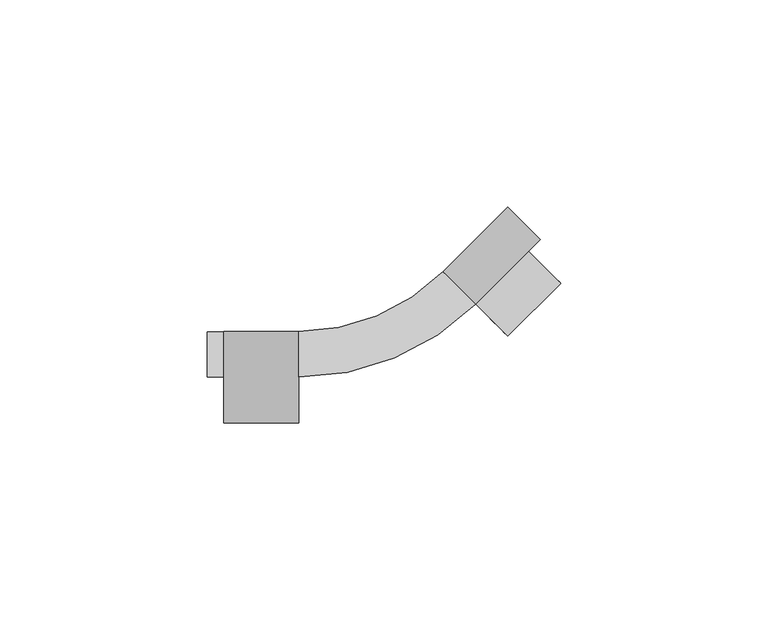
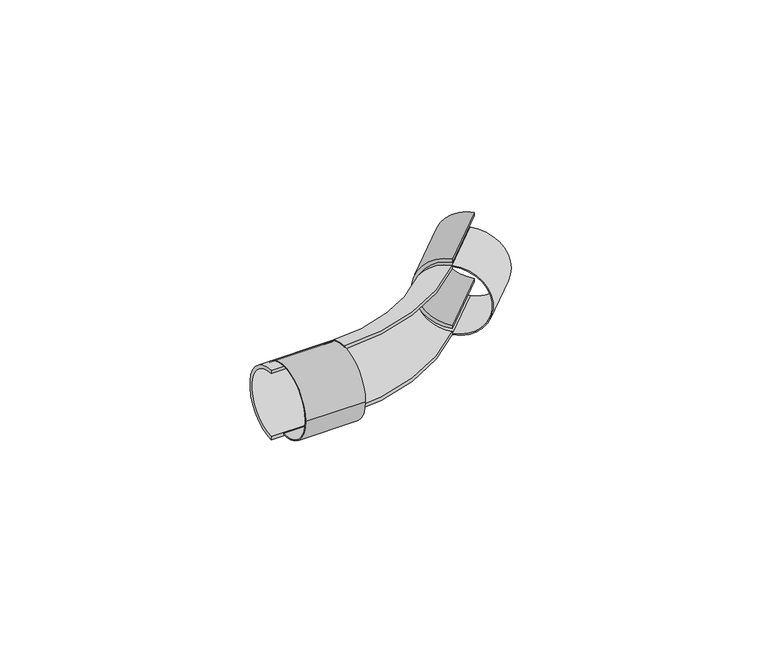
"""IFC4 building model written with IfcOpenShell, lengths in millimetres: pipe fitting geometry, REHAU_RAUTITAN_Pipe bend former sanitary : REHAU_RAUTITAN_Pipe bend former sanitary."""

from ifc_helpers import new_model, si_unit, point, frame, frame_2d, origin, origin_2d, place, context, project, spatial, polyline, circle_curve, ellipse_curve, trimmed, segment, composite_curve, outline, extrude, source, transform, mapped, element, save
from ifc_brep_helpers import plane_surface, cylinder_surface, revolved_surface, advanced_brep


def pipe_fitting_27d213ee(model_context):
    return source(origin(), model_context, "Body", "SolidModel", [
        advanced_brep(
        [(-25.0, 0.0, 11.0), (-25.0, 0.0, -11.0), (-25.0, 0.0, -10.0), (-25.0, 0.0, 10.0), (17.6776695, 17.6776695, 11.0), (17.6776695, 17.6776695, 10.0), (17.6776695, 17.6776695, -10.0), (17.6776695, 17.6776695, -11.0)],
        [
            (0, 1, circle_curve(frame((-25.0, 0.0, 0.0), z_axis=(-1.0, 0.0, 0.0), x_axis=(0.0, 1.0, 0.0)), 11.0)),
            (1, 2),
            (2, 3, circle_curve(frame((-25.0, 0.0, 0.0), z_axis=(1.0, 0.0, 0.0), x_axis=(0.0, 1.0, 0.0)), 10.0)),
            (3, 0),
            (4, 5),
            (5, 6, circle_curve(frame((17.6776695, 17.6776695, 0.0), z_axis=(-0.7071067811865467, -0.7071067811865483, 0.0), x_axis=(-0.7071067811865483, 0.7071067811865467, 0.0)), 10.0)),
            (6, 7),
            (7, 4, circle_curve(frame((17.6776695, 17.6776695, 0.0), z_axis=(0.7071067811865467, 0.7071067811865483, 0.0), x_axis=(-0.7071067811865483, 0.7071067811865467, 0.0)), 11.0)),
            (4, 0, circle_curve(frame((-25.0, 60.3553391, 11.0), z_axis=(0.0, 0.0, -1.0), x_axis=(0.0, -1.0, 0.0)), 60.3553391)),
            (3, 5, circle_curve(frame((-25.0, 60.3553391, 10.0), z_axis=(0.0, 0.0, 1.0), x_axis=(0.0, -1.0, 0.0)), 60.3553391)),
            (6, 2, circle_curve(frame((-25.0, 60.3553391, -10.0), z_axis=(0.0, 0.0, -1.0), x_axis=(0.0, -1.0, 0.0)), 60.3553391)),
            (1, 7, circle_curve(frame((-25.0, 60.3553391, -11.0), z_axis=(0.0, 0.0, 1.0), x_axis=(0.0, -1.0, 0.0)), 60.3553391)),
        ],
        [
            plane_surface(frame((-25.0, 0.0, 0.0), z_axis=(-1.0, 0.0, 0.0), x_axis=(0.0, 0.0, 1.0))),
            plane_surface(frame((17.6776695, 17.6776695, 0.0), z_axis=(0.7071067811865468, 0.7071067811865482, 0.0), x_axis=(0.0, 0.0, 1.0))),
            cylinder_surface(frame((-25.0, 60.3553391, 0.0), z_axis=(0.0, 0.0, 1.0), x_axis=(0.0, -1.0, 0.0)), 60.3553391),
            revolved_surface(trimmed(ellipse_curve(frame((-25.0, 0.0, 0.0), z_axis=(-1.0, 0.0, 0.0), x_axis=(0.0, 1.0, 0.0)), 11.0, 11.0), [point((-25.0, 0.0, 11.0))], [point((-25.0, 0.0, -11.0))], True, "CARTESIAN"), (-25.0, 60.3553391, 0.0), (0.0, 0.0, 1.0)),
            revolved_surface(trimmed(ellipse_curve(frame((-25.0, 0.0, 0.0), z_axis=(1.0, 0.0, 0.0), x_axis=(0.0, 1.0, 0.0)), 10.0, 10.0), [point((-25.0, 0.0, -10.0))], [point((-25.0, 0.0, 10.0))], True, "CARTESIAN"), (-25.0, 60.3553391, 0.0), (0.0, 0.0, 1.0)),
        ],
        [
            (0, [[1, 2, 3, 4]]),
            (1, [[5, 6, 7, 8]]),
            (2, [[9, -4, 10, -5]]),
            (2, [[11, -2, 12, -7]]),
            (3, [[-12, -1, -9, -8]]),
            (4, [[-10, -3, -11, -6]]),
        ],
    ),
        extrude(outline(composite_curve([segment(trimmed(circle_curve(origin_2d(), 11.0), [point((11.0, 0.0))], [point((-11.0, 0.0))], False, "CARTESIAN"), True, "CONTINUOUS"), segment(trimmed(circle_curve(origin_2d(), 11.0), [point((-11.0, 0.0))], [point((11.0, 0.0))], False, "CARTESIAN"), True, "CONTINUOUS")], self_intersect=False), holes=[composite_curve([segment(trimmed(circle_curve(origin_2d(), 10.65), [point((10.65, 0.0))], [point((-10.65, 0.0))], True, "CARTESIAN"), True, "CONTINUOUS"), segment(trimmed(circle_curve(origin_2d(), 10.65), [point((-10.65, 0.0))], [point((10.65, 0.0))], True, "CARTESIAN"), True, "CONTINUOUS")], self_intersect=False)]), frame((-43.0, 0.0, 0.0), z_axis=(1.0, 0.0, 0.0), x_axis=(0.0, 1.0, 0.0)), (0.0, 0.0, 1.0), 18.0),
        extrude(outline(composite_curve([segment(trimmed(circle_curve(frame_2d((0.0, -11.0)), 11.0), [point((0.0, -22.0))], [point((0.0, 0.0))], False, "CARTESIAN"), True, "CONTINUOUS"), segment(trimmed(circle_curve(frame_2d((0.0, -11.0)), 11.0), [point((0.0, 0.0))], [point((0.0, -22.0))], False, "CARTESIAN"), True, "CONTINUOUS")], self_intersect=False), holes=[composite_curve([segment(trimmed(circle_curve(frame_2d((0.0, -11.0)), 10.65), [point((0.0, -21.65))], [point((0.0, -0.35))], True, "CARTESIAN"), True, "CONTINUOUS"), segment(trimmed(circle_curve(frame_2d((0.0, -11.0)), 10.65), [point((0.0, -0.35))], [point((0.0, -21.65))], True, "CARTESIAN"), True, "CONTINUOUS")], self_intersect=False)]), frame((17.6776695, 17.6776695, 11.0), z_axis=(0.7071067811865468, 0.7071067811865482, 0.0), x_axis=(-0.7071067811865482, 0.7071067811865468, 0.0)), (0.0, 0.0, 1.0), 18.0),
        extrude(outline(composite_curve([segment(polyline([(0.0, 10.0), (0.0, 11.0)]), True, "CONTINUOUS"), segment(trimmed(circle_curve(origin_2d(), 11.0), [point((0.0, 11.0))], [point((0.0, -11.0))], False, "CARTESIAN"), True, "CONTINUOUS"), segment(polyline([(0.0, -11.0), (0.0, -10.0)]), True, "CONTINUOUS"), segment(trimmed(circle_curve(origin_2d(), 10.0), [point((0.0, -10.0))], [point((0.0, 10.0))], True, "CARTESIAN"), True, "CONTINUOUS")], self_intersect=False)), frame((-47.0, 0.0, 0.0), z_axis=(1.0, 0.0, 0.0), x_axis=(0.0, 1.0, 0.0)), (0.0, 0.0, 1.0), 22.0),
        extrude(outline(composite_curve([segment(polyline([(0.0, 0.0), (0.0, -1.0)]), True, "CONTINUOUS"), segment(trimmed(circle_curve(frame_2d((0.0, 10.0)), 11.0), [point((0.0, -1.0))], [point((0.0, 21.0))], False, "CARTESIAN"), True, "CONTINUOUS"), segment(polyline([(0.0, 21.0), (0.0, 20.0)]), True, "CONTINUOUS"), segment(trimmed(circle_curve(frame_2d((0.0, 10.0)), 10.0), [point((0.0, 20.0))], [point((0.0, 0.0))], True, "CARTESIAN"), True, "CONTINUOUS")], self_intersect=False)), frame((17.6776695, 17.6776695, 12.0015807), z_axis=(0.7071067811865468, 0.7071067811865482, 0.0), x_axis=(0.7071067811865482, -0.7071067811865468, 0.0)), (0.0, 0.0, 1.0), 22.0),
    ])


if __name__ == "__main__":
    model = new_model("IFC4")
    model_context = context("Model", 3, world=origin())
    ifc_project = project(units=[si_unit("LENGTHUNIT", "METRE", prefix="MILLI")], contexts=[model_context])
    site = spatial("IfcSite", under=ifc_project)
    building = spatial("IfcBuilding", under=site)
    placement = place(None, origin())
    pipe_fitting_shape = pipe_fitting_27d213ee(model_context)
    element("IfcPipeFitting", 1, ObjectType="REHAU_RAUTITAN_Pipe bend former sanitary : REHAU_RAUTITAN_Pipe bend former sanitary", at=placement, inside=building, context=model_context, shape_type="MappedRepresentation", body=[
        mapped(pipe_fitting_shape, transform((0.0, 0.0, 0.0), x_axis=(1.0, 0.0, 0.0), y_axis=(0.0, 1.0, 0.0), z_axis=(0.0, 0.0, 1.0))),
    ])
    save(model, "model.ifc")
